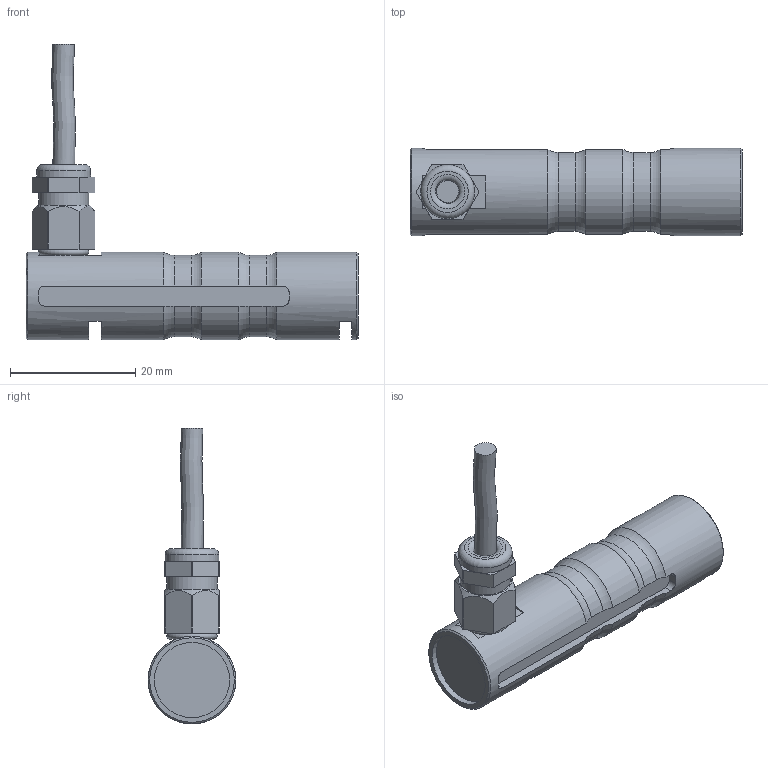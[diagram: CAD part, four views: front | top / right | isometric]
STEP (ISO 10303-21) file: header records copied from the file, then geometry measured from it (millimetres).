
FILE_DESCRIPTION(/* description */ ('Alibre Inc.'),/* implementation_level */ '2;1');
FILE_NAME(/* name */ 'export0',/* time_stamp */ '2016-01-25T15:43:28+01:00',/* author */ (''),/* organization */ (''),/* preprocessor_version */ 'ST-DEVELOPER v14',/* originating_system */ 'Alibre',/* authorisation */ '');
FILE_SCHEMA (('CONFIG_CONTROL_DESIGN'));
Length unit declared in the file: centimetre
Products named in the file (6): ID_1; ID_2; ID_3
Bounding box: 53 x 14 x 47.23 mm (x, y, z)
Volume: 8222.4 mm3; surface area: 4188.2 mm2
Topology: 4 solids, 4 shells, 94 faces, 237 edges, 156 vertices
Faces by surface type: plane 43, cylinder 34, torus 11, cone 5, bspline 1
Full cylindrical faces by diameter (mm): 3.5 x1, 4.917 x1, 6 x1, 8 x1, 8.6 x1, 12 x1, 14 x2
Entity records: 3521 total; most frequent: CARTESIAN_POINT 994, ORIENTED_EDGE 420, DIRECTION 330, EDGE_CURVE 210, VERTEX_POINT 148, AXIS2_PLACEMENT_3D 138, FACE_BOUND 120, EDGE_LOOP 119
